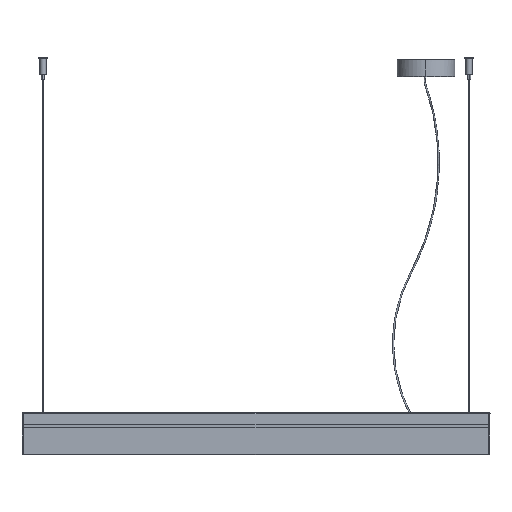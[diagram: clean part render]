
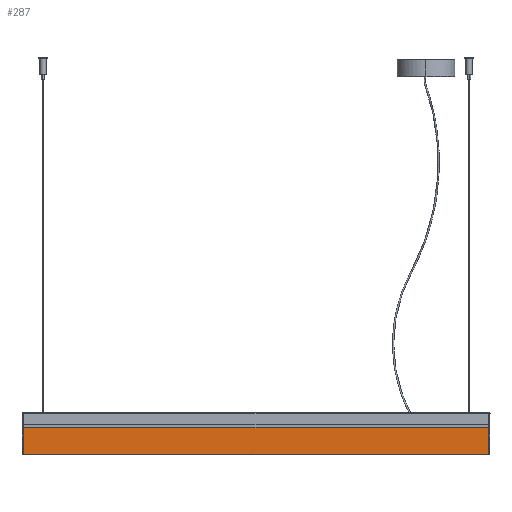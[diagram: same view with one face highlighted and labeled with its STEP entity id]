
A CAD part, front view. The second image highlights one B-rep face of the part: STEP entity #287.
In plain terms, the highlighted planar face has unit normal (0, -1, 0).
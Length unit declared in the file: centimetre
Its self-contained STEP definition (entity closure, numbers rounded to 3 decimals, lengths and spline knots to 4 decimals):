
#287=ADVANCED_FACE('',(#577),#4802,.T.);
#577=FACE_OUTER_BOUND('',#883,.T.);
#883=EDGE_LOOP('',(#2008,#2009,#2010,#2011));
#2008=ORIENTED_EDGE('',*,*,#3125,.F.);
#2009=ORIENTED_EDGE('',*,*,#3126,.T.);
#2010=ORIENTED_EDGE('',*,*,#3127,.T.);
#2011=ORIENTED_EDGE('',*,*,#2855,.T.);
#2855=EDGE_CURVE('',#4392,#4391,#3563,.T.);
#3125=EDGE_CURVE('',#4585,#4391,#3765,.T.);
#3126=EDGE_CURVE('',#4585,#4586,#3766,.T.);
#3127=EDGE_CURVE('',#4586,#4392,#3767,.T.);
#3563=B_SPLINE_CURVE_WITH_KNOTS('',1,(#8116,#8117),.UNSPECIFIED.,.F.,.F.,
(2,2),(-44.5546,0.),.UNSPECIFIED.);
#3765=B_SPLINE_CURVE_WITH_KNOTS('',1,(#8804,#8805),.UNSPECIFIED.,.F.,.F.,
(2,2),(-1500.,15.),.UNSPECIFIED.);
#3766=B_SPLINE_CURVE_WITH_KNOTS('',1,(#8806,#8807),.UNSPECIFIED.,.F.,.F.,
(2,2),(0.,44.5546),.UNSPECIFIED.);
#3767=B_SPLINE_CURVE_WITH_KNOTS('',1,(#8808,#8809),.UNSPECIFIED.,.F.,.F.,
(2,2),(-1500.,15.),.UNSPECIFIED.);
#4391=VERTEX_POINT('',#7780);
#4392=VERTEX_POINT('',#7781);
#4585=VERTEX_POINT('',#7974);
#4586=VERTEX_POINT('',#7975);
#4802=PLANE('',#5220);
#5220=AXIS2_PLACEMENT_3D('',#7641,#5493,$);
#5493=DIRECTION('',(0.,-1.,0.));
#7641=CARTESIAN_POINT('',(2063.2038,1660.4944,1124.2211));
#7780=CARTESIAN_POINT('',(2063.1988,1660.4944,1168.7857));
#7781=CARTESIAN_POINT('',(2063.1988,1660.4944,1124.2311));
#7974=CARTESIAN_POINT('',(1305.6988,1660.4944,1168.7857));
#7975=CARTESIAN_POINT('',(1305.6988,1660.4944,1124.2311));
#8116=CARTESIAN_POINT('',(2063.1988,1660.4944,1124.2311));
#8117=CARTESIAN_POINT('',(2063.1988,1660.4944,1168.7857));
#8804=CARTESIAN_POINT('',(1305.6988,1660.4944,1168.7857));
#8805=CARTESIAN_POINT('',(2063.1988,1660.4944,1168.7857));
#8806=CARTESIAN_POINT('',(1305.6988,1660.4944,1168.7857));
#8807=CARTESIAN_POINT('',(1305.6988,1660.4944,1124.2311));
#8808=CARTESIAN_POINT('',(1305.6988,1660.4944,1124.2311));
#8809=CARTESIAN_POINT('',(2063.1988,1660.4944,1124.2311));
